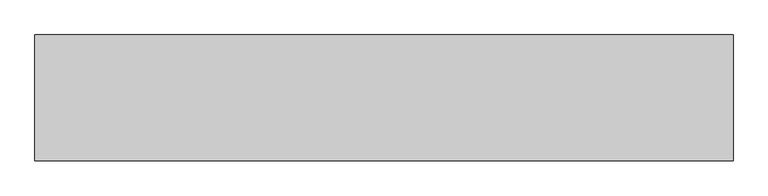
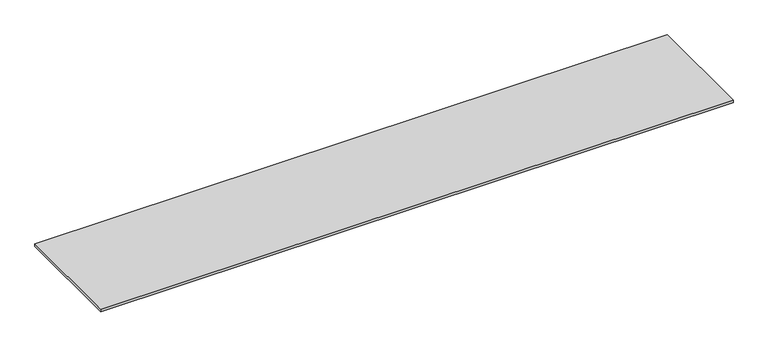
"""IFC4 building model written with IfcOpenShell, lengths in millimetres: proxy geometry, ИЗТТ_Логотип : ИЗТТ_Логотип."""

from ifc_helpers import new_model, si_unit, origin, origin_with_axes, place, context, project, spatial, polyline, outline, extrude, source, transform, mapped, element, save


def entourage_b6f5d68a(model_context):
    return source(origin(), model_context, "Body", "SweptSolid", [
        extrude(outline(polyline([(8960.7201519, 21895.2993208), (8960.7201519, 17895.2993208), (-13239.2798481, 17895.2993208), (-13239.2798481, 21895.2993208), (8960.7201519, 21895.2993208)])), origin_with_axes(), (0.0, 0.0, 1.0), 99.0),
    ])


if __name__ == "__main__":
    model = new_model("IFC4")
    model_context = context("Model", 3, world=origin())
    ifc_project = project(units=[si_unit("LENGTHUNIT", "METRE", prefix="MILLI")], contexts=[model_context])
    site = spatial("IfcSite", under=ifc_project)
    building = spatial("IfcBuilding", under=site)
    placement = place(None, origin())
    entourage_shape = entourage_b6f5d68a(model_context)
    element("IfcBuildingElementProxy", 1, Name="ИЗТТ_Логотип : ИЗТТ_Логотип", ObjectType="ИЗТТ_Логотип : ИЗТТ_Логотип", at=placement, inside=building, context=model_context, shape_type="MappedRepresentation", body=[
        mapped(entourage_shape, transform((0.0, 0.0, 0.0), x_axis=(1.0, 0.0, 0.0), y_axis=(0.0, 1.0, 0.0), z_axis=(0.0, 0.0, 1.0))),
    ])
    save(model, "model.ifc")
